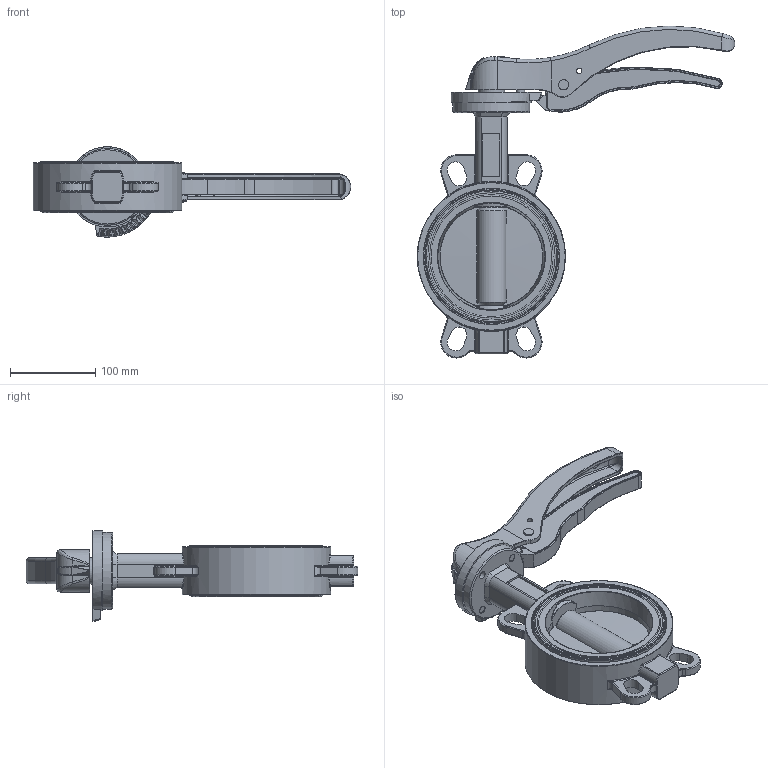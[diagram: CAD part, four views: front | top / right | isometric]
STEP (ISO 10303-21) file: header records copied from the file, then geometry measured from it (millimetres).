
FILE_DESCRIPTION (( 'STEP AP203' ), '1' );
FILE_NAME ('J9.DN125.STEP', '2012-12-17T15:46:48', ( 'luca.saino' ), ( 'Hewlett-Packard Company' ), 'SwSTEP 2.0', 'SolidWorks 2012', '' );
FILE_SCHEMA (( 'CONFIG_CONTROL_DESIGN' ));
Products named in the file (1): J9.DN125
Bounding box: 372.25 x 388.91 x 105.92 mm (x, y, z)
Volume: 1457290.8 mm3; surface area: 247320.6 mm2
Topology: 1 solids, 3 shells, 1305 faces, 3334 edges, 2064 vertices
Faces by surface type: plane 443, cylinder 348, bspline 233, torus 193, cone 58, sphere 30
Full cylindrical faces by diameter (mm): 5 x2, 6 x1, 6.3 x2, 9 x4, 10 x3, 10.2 x4, 12 x1, 15 x2, 16 x2, 90 x1, 94 x1, 156 x2, 158.8 x2, 174 x1
Entity records: 48923 total; most frequent: CARTESIAN_POINT 19465, ORIENTED_EDGE 6386, DIRECTION 5728, EDGE_CURVE 3193, AXIS2_PLACEMENT_3D 2179, VERTEX_POINT 2022, EDGE_LOOP 1465, VECTOR 1370
